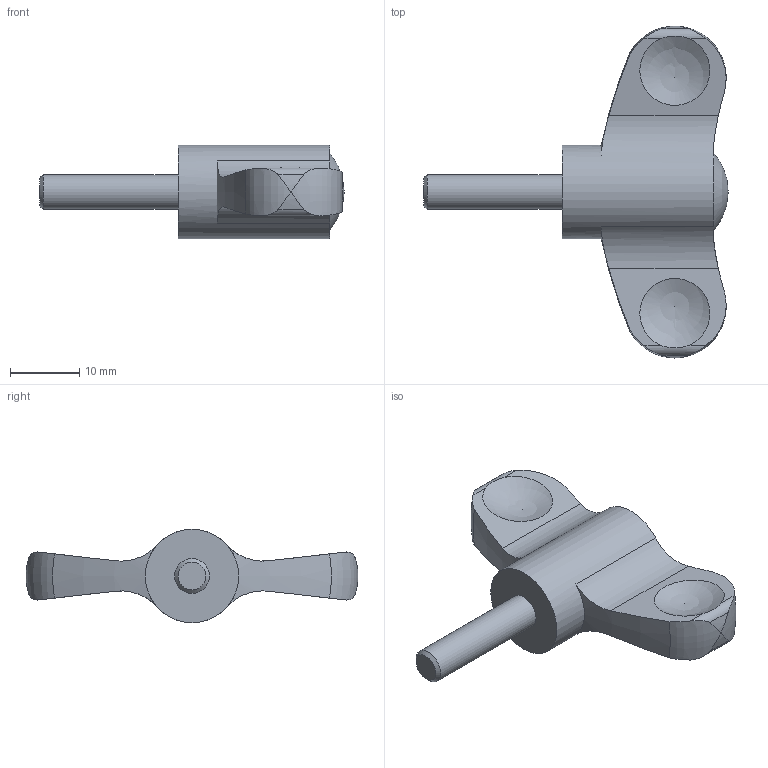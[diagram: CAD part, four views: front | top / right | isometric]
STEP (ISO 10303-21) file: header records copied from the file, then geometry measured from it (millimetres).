
FILE_DESCRIPTION( ( 'STEP AP203' ), '1' );
FILE_NAME( 'C:/Temp/Ganter_Step_05_03_2020/data/2_2/gn_633/Wing nut GN 633-48-M5-20-DOR.stp', '2020-03-05T12:20:34', ( 'License CC BY-ND 4.0' ), ( 'CADENAS' ), ' ', 'PARTsolutions', ' ' );
FILE_SCHEMA( ( 'CONFIG_CONTROL_DESIGN' ) );
Length unit declared in the file: millimetre
Products named in the file (1): _Wing nut GN 633-48-M5-20-DOR
Bounding box: 44 x 48 x 13.5 mm (x, y, z)
Volume: 6084.4 mm3; surface area: 2857.8 mm2
Topology: 1 solids, 1 shells, 33 faces, 102 edges, 68 vertices
Faces by surface type: cylinder 14, sphere 7, plane 7, bspline 2, torus 2, cone 1
Full cylindrical faces by diameter (mm): 5 x1, 13.5 x1
Entity records: 1450 total; most frequent: CARTESIAN_POINT 638, ORIENTED_EDGE 166, DIRECTION 138, EDGE_CURVE 83, VERTEX_POINT 63, AXIS2_PLACEMENT_3D 59, EDGE_LOOP 38, B_SPLINE_CURVE_WITH_KNOTS 36
